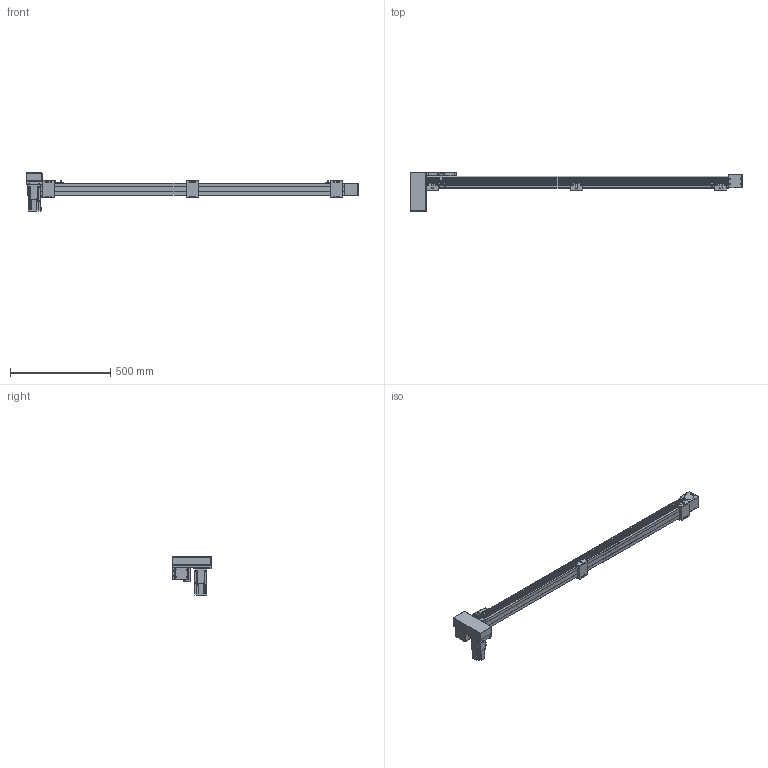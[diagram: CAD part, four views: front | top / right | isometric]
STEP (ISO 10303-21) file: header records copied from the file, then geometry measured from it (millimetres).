
FILE_DESCRIPTION(/* description */ ('STEP AP214'),/* implementation_level */ '2;1');
FILE_NAME(/* name */ 'SK60-P13-S1350-RD-T40-C1-N(0)',/* time_stamp */ '2023-04-06T04:55:57+02:00',/* author */ ('License CC BY-ND 4.0'),/* organization */ ('CADENAS'),/* preprocessor_version */ 'ST-DEVELOPER v19.3',/* originating_system */ 'PARTsolutions',/* authorisation */ ' ');
FILE_SCHEMA (('AUTOMOTIVE_DESIGN {1 0 10303 214 3 1 1}'));
Length unit declared in the file: millimetre
Products named in the file (10): SK60-P13-S1350-RD-T40-C1-N(0); PSC140-sensor; SK60-S450_seat; SK60-S450-BL-C1_slider; SK60_body3; SK60_body6; SK60-BL_body2; T40-p1; SK60-RD_fb; SK60-S1350-RD-C1_body
Assembly tree (17 placements, depth 2):
  SK60-P13-S1350-RD-T40-C1-N(0)
    PSC140-sensor  x3
    SK60-S450_seat  x3
    SK60-S450-BL-C1_slider
    SK60_body3  x3
    SK60_body6  x2
    SK60-BL_body2  x2
    T40-p1
    SK60-RD_fb
    SK60-S1350-RD-C1_body
Bounding box: 1655.5 x 199 x 189.7 mm (x, y, z)
Volume: 6804928.1 mm3; surface area: 832978.2 mm2
Topology: 17 solids, 17 shells, 854 faces, 2146 edges, 1413 vertices
Faces by surface type: plane 548, cylinder 278, cone 26, torus 2
Full cylindrical faces by diameter (mm): 2.8 x3, 3.3 x4, 4 x2, 4.5 x30, 4.6 x3, 4.917 x20, 5 x6, 5.478 x4, 5.5 x23, 6.5 x6, 7 x2, 8 x4, 8.5 x4, 9.988 x4, 10 x12, 14 x1, 47 x3, 50 x2
Entity records: 18663 total; most frequent: DIRECTION 3186, CARTESIAN_POINT 3151, ORIENTED_EDGE 2940, EDGE_CURVE 1470, AXIS2_PLACEMENT_3D 1069, LINE 1048, VECTOR 1048, VERTEX_POINT 1034
